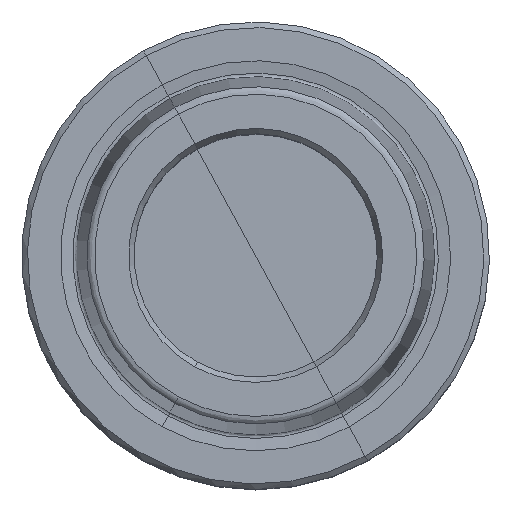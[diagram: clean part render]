
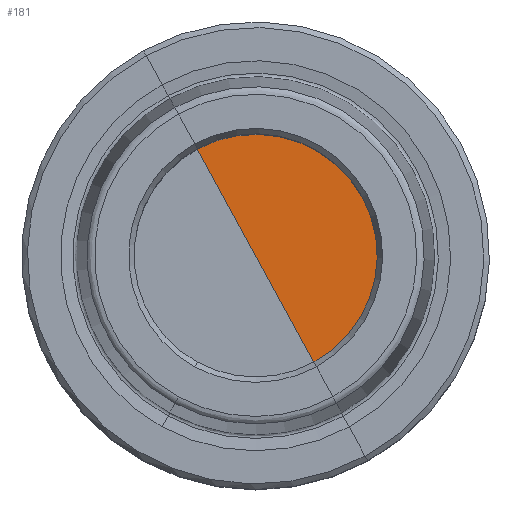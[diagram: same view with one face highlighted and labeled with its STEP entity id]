
A CAD part, top view. The second image highlights one B-rep face of the part: STEP entity #181.
In plain terms, the highlighted planar face has unit normal (0, 0, 1).
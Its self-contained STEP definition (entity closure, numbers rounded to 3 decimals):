
#161=AXIS2_PLACEMENT_3D('Plane Axis2P3D',#158,#159,#160) ;
#174=AXIS2_PLACEMENT_3D('Circle Axis2P3D',#172,#173,$) ;
#158=CARTESIAN_POINT('Axis2P3D Location',(0.,-11.8,-10.)) ;
#163=CARTESIAN_POINT('Line Origine',(0.,0.,-10.)) ;
#167=CARTESIAN_POINT('Vertex',(-6.233,11.409,-10.)) ;
#169=CARTESIAN_POINT('Vertex',(6.233,-11.409,-10.)) ;
#172=CARTESIAN_POINT('Axis2P3D Location',(0.,0.,-10.)) ;
#159=DIRECTION('Axis2P3D Direction',(0.,0.,-1.)) ;
#160=DIRECTION('Axis2P3D XDirection',(-1.,0.,0.)) ;
#164=DIRECTION('Vector Direction',(-0.479,0.878,0.)) ;
#173=DIRECTION('Axis2P3D Direction',(0.,0.,-1.)) ;
#165=VECTOR('Line Direction',#164,1.) ;
#178=ORIENTED_EDGE('',*,*,#171,.T.) ;
#179=ORIENTED_EDGE('',*,*,#176,.T.) ;
#181=ADVANCED_FACE('NOCUT',(#180),#162,.F.) ;
#175=CIRCLE('generated circle',#174,13.) ;
#171=EDGE_CURVE('',#168,#170,#166,.F.) ;
#176=EDGE_CURVE('',#170,#168,#175,.F.) ;
#177=EDGE_LOOP('',(#178,#179)) ;
#180=FACE_OUTER_BOUND('',#177,.T.) ;
#166=LINE('Line',#163,#165) ;
#162=PLANE('',#161) ;
#168=VERTEX_POINT('',#167) ;
#170=VERTEX_POINT('',#169) ;
